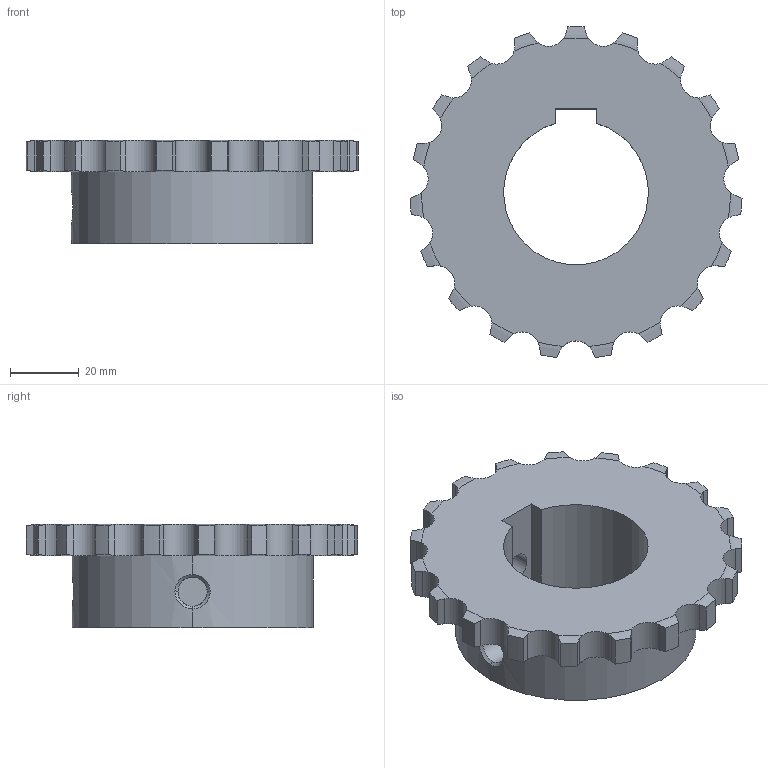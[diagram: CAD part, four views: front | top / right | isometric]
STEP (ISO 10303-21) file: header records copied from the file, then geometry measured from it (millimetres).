
FILE_DESCRIPTION((''),'2;1');
FILE_NAME('510-301-4219_PRT','2021-02-13T',('Brieden'),('Brieden'),'PRO/ENGINEER BY PARAMETRIC TECHNOLOGY CORPORATION, 2010160','PRO/ENGINEER BY PARAMETRIC TECHNOLOGY CORPORATION, 2010160','');
FILE_SCHEMA(('AUTOMOTIVE_DESIGN { 1 0 10303 214 1 1 1 1 }'));
Length unit declared in the file: millimetre
Products named in the file (1): 510-301-4219_PRT
Bounding box: 96.4 x 96.12 x 30 mm (x, y, z)
Volume: 95487.1 mm3; surface area: 22952.2 mm2
Topology: 1 solids, 1 shells, 134 faces, 387 edges, 256 vertices
Faces by surface type: cylinder 83, torus 38, plane 7, bspline 6
Entity records: 6602 total; most frequent: CARTESIAN_POINT 2062, ORIENTED_EDGE 774, DIRECTION 603, PRESENTATION_STYLE_ASSIGNMENT 388, STYLED_ITEM 388, CURVE_STYLE 387, EDGE_CURVE 387, VERTEX_POINT 256
